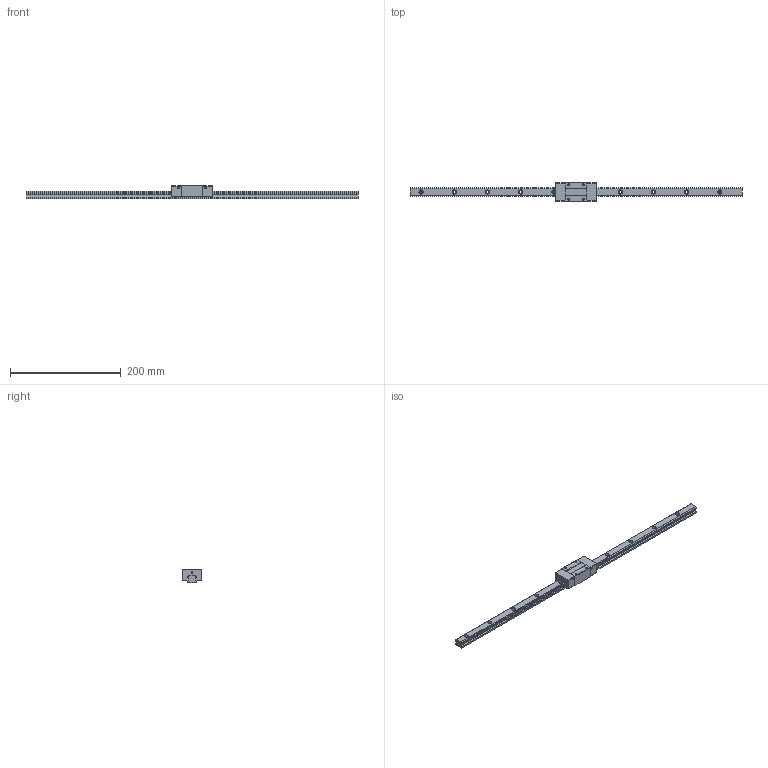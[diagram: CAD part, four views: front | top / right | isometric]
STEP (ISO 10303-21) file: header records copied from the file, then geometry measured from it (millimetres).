
FILE_DESCRIPTION (( 'STEP AP203' ), '1' );
FILE_NAME ('TRS15VN-DU.STEP', '2024-07-12T03:24:42', ( '' ), ( '' ), 'SwSTEP 2.0', 'SolidWorks 2022', '' );
FILE_SCHEMA (( 'CONFIG_CONTROL_DESIGN' ));
Length unit declared in the file: millimetre
Products named in the file (1): TRS15VN-DU
Bounding box: 600 x 34 x 24 mm (x, y, z)
Volume: 141027 mm3; surface area: 48160.2 mm2
Topology: 2 solids, 2 shells, 204 faces, 528 edges, 340 vertices
Faces by surface type: cylinder 96, plane 92, cone 16
Entity records: 6319 total; most frequent: DIRECTION 1130, CARTESIAN_POINT 1065, ORIENTED_EDGE 1040, EDGE_CURVE 520, AXIS2_PLACEMENT_3D 405, VERTEX_POINT 340, LINE 320, VECTOR 320
